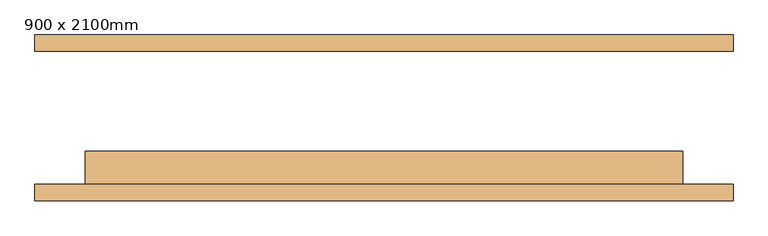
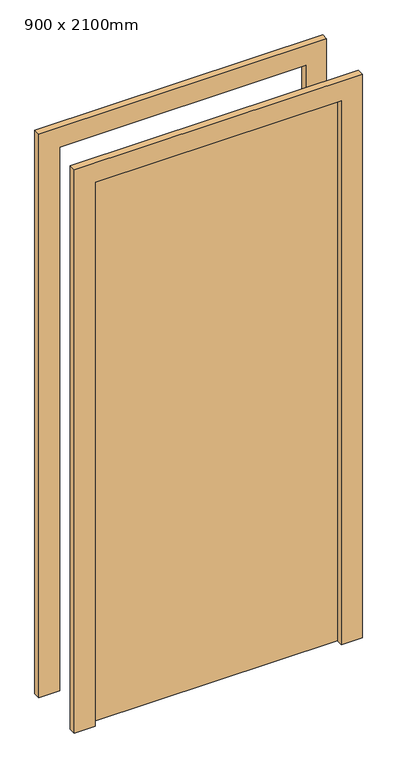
"""IFC4 building model written with IfcOpenShell, lengths in millimetres: door geometry, M_Dveře, jednokřídlé, panel : 900 x 2100mm."""

from ifc_helpers import new_model, si_unit, frame, origin, origin_with_axes, place, context, project, spatial, polyline, outline, extrude, source, transform, mapped, element, save


def door_900_x_2100mm_4fa88ec2(model_context):
    return source(origin(), model_context, "Body", "SweptSolid", [
        extrude(outline(polyline([(450.0, -50.0), (450.0, -100.0), (-450.0, -100.0), (-450.0, -50.0), (450.0, -50.0)])), origin_with_axes(), (0.0, 0.0, 1.0), 2100.0),
        extrude(outline(polyline([(2176.2, 526.2), (2176.2, -526.2), (0.0, -526.2), (0.0, -450.0), (2100.0, -450.0), (2100.0, 450.0), (0.0, 450.0), (0.0, 526.2), (2176.2, 526.2)])), frame((0.0, 100.0, 0.0), z_axis=(0.0, 1.0, 0.0), x_axis=(0.0, 0.0, 1.0)), (0.0, 0.0, 1.0), 25.0),
        extrude(outline(polyline([(2176.2, -526.2), (0.0, -526.2), (0.0, -450.0), (2100.0, -450.0), (2100.0, 450.0), (0.0, 450.0), (0.0, 526.2), (2176.2, 526.2), (2176.2, -526.2)])), frame((0.0, -125.0, 0.0), z_axis=(0.0, 1.0, 0.0), x_axis=(0.0, 0.0, 1.0)), (0.0, 0.0, 1.0), 25.0),
    ])


if __name__ == "__main__":
    model = new_model("IFC4")
    model_context = context("Model", 3, world=origin())
    ifc_project = project(units=[si_unit("LENGTHUNIT", "METRE", prefix="MILLI")], contexts=[model_context])
    site = spatial("IfcSite", under=ifc_project)
    building = spatial("IfcBuilding", under=site)
    placement = place(None, origin())
    door_900_x_2100mm_shape = door_900_x_2100mm_4fa88ec2(model_context)
    element("IfcDoor", 1, ObjectType="M_Dveře, jednokřídlé, panel : 900 x 2100mm", at=placement, inside=building, context=model_context, shape_type="MappedRepresentation", body=[
        mapped(door_900_x_2100mm_shape, transform((0.0, 0.0, 0.0), x_axis=(1.0, 0.0, 0.0), y_axis=(0.0, 1.0, 0.0), z_axis=(0.0, 0.0, 1.0))),
    ])
    save(model, "model.ifc")
